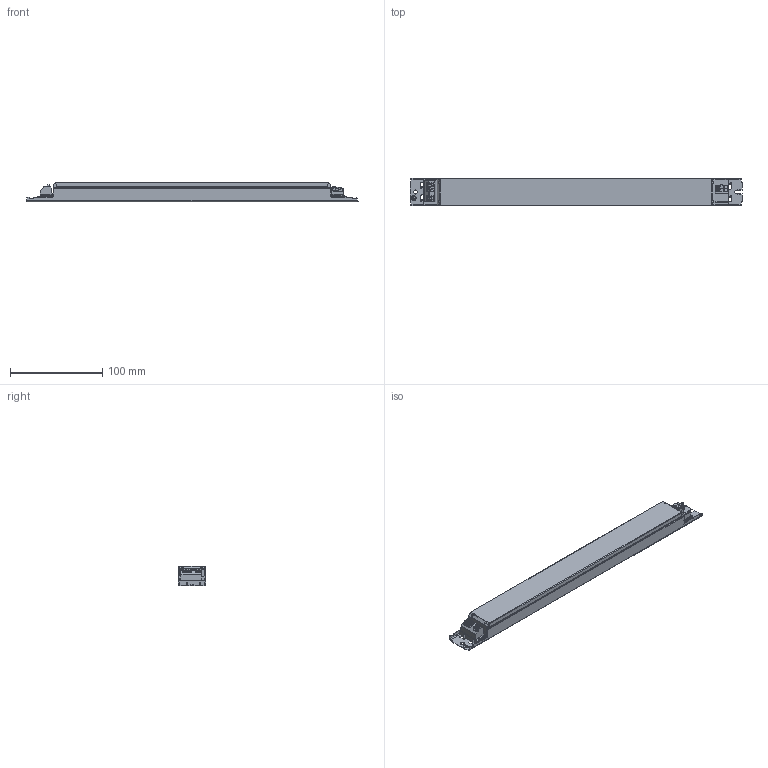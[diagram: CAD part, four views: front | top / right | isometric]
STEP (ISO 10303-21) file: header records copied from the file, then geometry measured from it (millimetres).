
FILE_DESCRIPTION((''),'2;1');
FILE_NAME('15014606Z_DMEC_360X30X21','2021-07-19T15:28:32',('Emanuel.Wild'),(''),'CREO PARAMETRIC BY PTC INC, 2019164','CREO PARAMETRIC BY PTC INC, 2019164','');
FILE_SCHEMA(('CONFIG_CONTROL_DESIGN'));
Length unit declared in the file: millimetre
Products named in the file (1): 15014606Z_DMEC_360X30X21
Bounding box: 360 x 30 x 21 mm (x, y, z)
Volume: 197580.3 mm3; surface area: 39187.4 mm2
Topology: 1 solids, 2 shells, 1363 faces, 3724 edges, 2330 vertices
Faces by surface type: plane 802, cylinder 413, bspline 66, cone 48, sphere 30, torus 4
Entity records: 44300 total; most frequent: CARTESIAN_POINT 10051, ORIENTED_EDGE 7354, DIRECTION 6876, EDGE_CURVE 3677, VECTOR 2574, LINE 2574, VERTEX_POINT 2330, AXIS2_PLACEMENT_3D 2151
